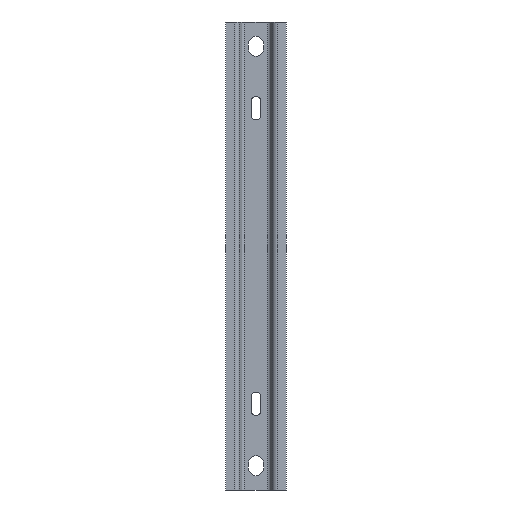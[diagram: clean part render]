
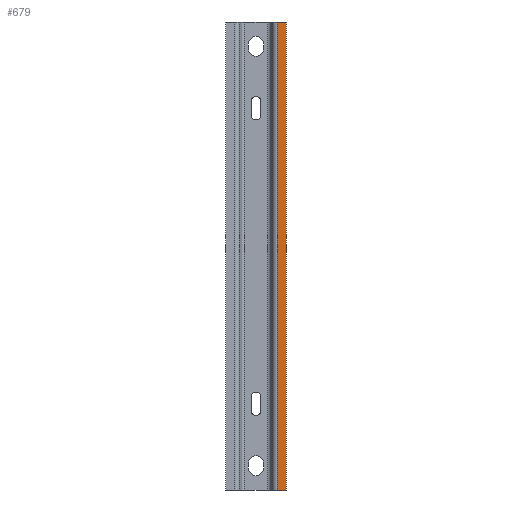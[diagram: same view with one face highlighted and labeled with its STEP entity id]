
A CAD part, front view. The second image highlights one B-rep face of the part: STEP entity #679.
In plain terms, the highlighted planar face has unit normal (0, -1, 0).
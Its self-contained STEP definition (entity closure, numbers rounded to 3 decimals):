
#20 = DIRECTION ( 'NONE',  ( -1., 0., 0. ) ) ;
#23 = DIRECTION ( 'NONE',  ( 0., 0., -1. ) ) ;
#31 = FACE_OUTER_BOUND ( 'NONE', #613, .T. ) ;
#113 = LINE ( 'NONE', #865, #1009 ) ;
#128 = DIRECTION ( 'NONE',  ( 1., 0., 0. ) ) ;
#168 = DIRECTION ( 'NONE',  ( 1., 0., 0. ) ) ;
#245 = ORIENTED_EDGE ( 'NONE', *, *, #252, .T. ) ;
#248 = CARTESIAN_POINT ( 'NONE',  ( 16., -11., 400. ) ) ;
#252 = EDGE_CURVE ( 'NONE', #855, #380, #1190, .T. ) ;
#273 = ORIENTED_EDGE ( 'NONE', *, *, #483, .F. ) ;
#345 = CARTESIAN_POINT ( 'NONE',  ( 18.114, -11., 400. ) ) ;
#380 = VERTEX_POINT ( 'NONE', #1116 ) ;
#393 = DIRECTION ( 'NONE',  ( 0., 1., 0. ) ) ;
#414 = LINE ( 'NONE', #905, #526 ) ;
#468 = AXIS2_PLACEMENT_3D ( 'NONE', #248, #393, #20 ) ;
#483 = EDGE_CURVE ( 'NONE', #816, #936, #913, .T. ) ;
#526 = VECTOR ( 'NONE', #168, 1000. ) ;
#568 = CARTESIAN_POINT ( 'NONE',  ( 18.114, -11., 400. ) ) ;
#613 = EDGE_LOOP ( 'NONE', ( #1104, #273, #780, #245 ) ) ;
#679 = ADVANCED_FACE ( 'NONE', ( #31 ), #1120, .F. ) ;
#771 = VECTOR ( 'NONE', #23, 1000. ) ;
#780 = ORIENTED_EDGE ( 'NONE', *, *, #1497, .F. ) ;
#816 = VERTEX_POINT ( 'NONE', #1291 ) ;
#855 = VERTEX_POINT ( 'NONE', #568 ) ;
#865 = CARTESIAN_POINT ( 'NONE',  ( 16., -11., 0. ) ) ;
#905 = CARTESIAN_POINT ( 'NONE',  ( 16., -11., 400. ) ) ;
#913 = LINE ( 'NONE', #1490, #771 ) ;
#936 = VERTEX_POINT ( 'NONE', #1432 ) ;
#1009 = VECTOR ( 'NONE', #128, 1000. ) ;
#1104 = ORIENTED_EDGE ( 'NONE', *, *, #1312, .T. ) ;
#1116 = CARTESIAN_POINT ( 'NONE',  ( 18.114, -11., 0. ) ) ;
#1120 = PLANE ( 'NONE',  #468 ) ;
#1169 = DIRECTION ( 'NONE',  ( 0., 0., -1. ) ) ;
#1190 = LINE ( 'NONE', #345, #1372 ) ;
#1291 = CARTESIAN_POINT ( 'NONE',  ( 26., -11., 400. ) ) ;
#1312 = EDGE_CURVE ( 'NONE', #380, #936, #113, .T. ) ;
#1372 = VECTOR ( 'NONE', #1169, 1000. ) ;
#1432 = CARTESIAN_POINT ( 'NONE',  ( 26., -11., 0. ) ) ;
#1490 = CARTESIAN_POINT ( 'NONE',  ( 26., -11., 400. ) ) ;
#1497 = EDGE_CURVE ( 'NONE', #855, #816, #414, .T. ) ;
